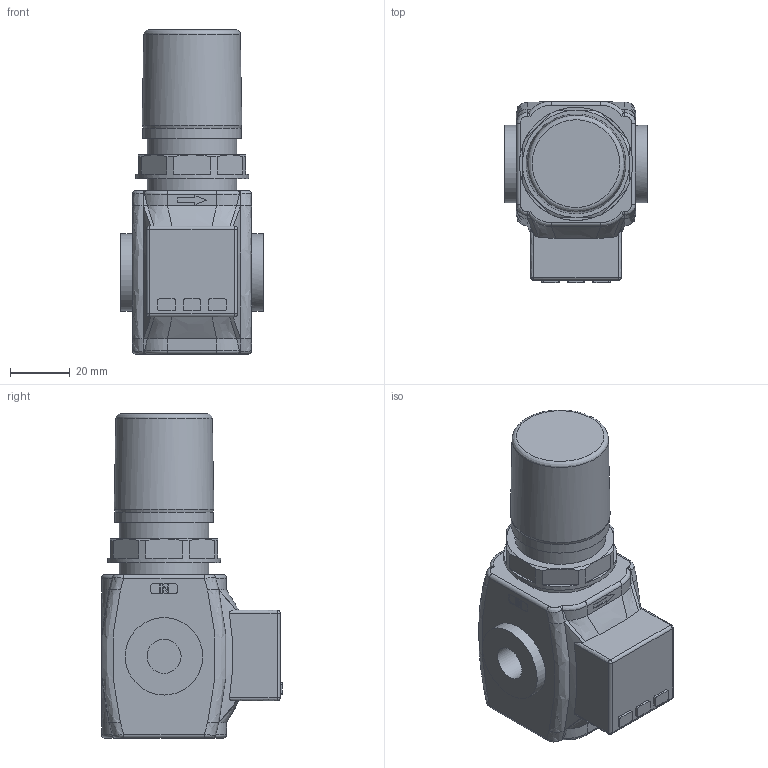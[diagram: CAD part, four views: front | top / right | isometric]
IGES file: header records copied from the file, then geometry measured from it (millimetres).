
Global section: file name: No Iges File Name specified; native system: Autodesk Inventor 2013; preprocessor: AutoDesk Inventor Iges Exporter R2013; author: valotma1; date: 20130924.133901; units: millimetre
Bounding box: 48 x 60.8 x 109 mm (x, y, z)
Volume: 154763.6 mm3; surface area: 26680.3 mm2
Topology: 2 solids, 3 shells, 354 faces, 843 edges, 533 vertices
Faces by surface type: bspline 354
